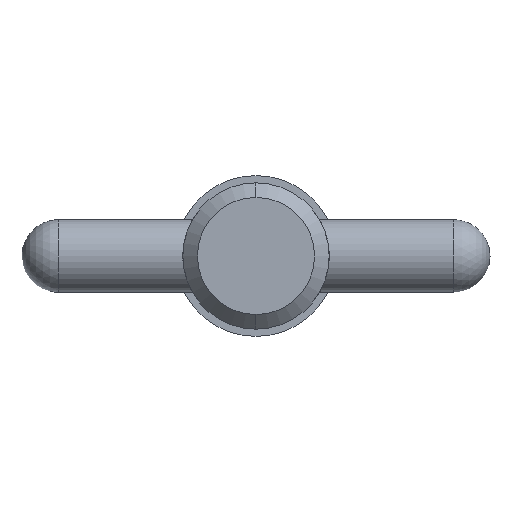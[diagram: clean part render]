
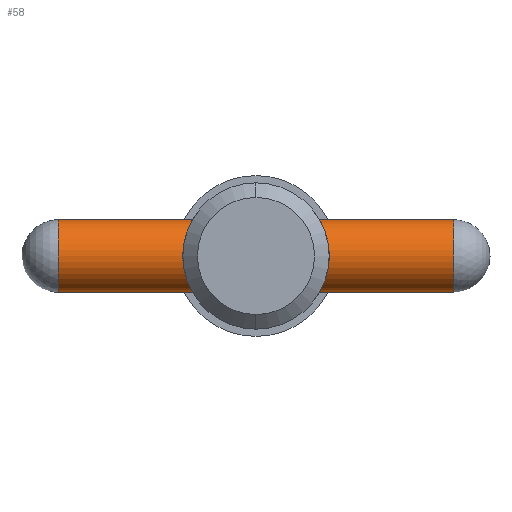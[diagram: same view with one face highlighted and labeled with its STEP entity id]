
A CAD part, left-side view. The second image highlights one B-rep face of the part: STEP entity #58.
In plain terms, the highlighted cylindrical face has radius 1.98 mm (diameter 3.96 mm), a partial arc.
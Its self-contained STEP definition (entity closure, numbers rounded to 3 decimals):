
#35 = EDGE_CURVE ( 'NONE', #330, #503, #840, .T. ) ;
#58 = ADVANCED_FACE ( 'NONE', ( #70 ), #861, .T. ) ;
#70 = FACE_OUTER_BOUND ( 'NONE', #797, .T. ) ;
#84 = AXIS2_PLACEMENT_3D ( 'NONE', #1012, #635, #295 ) ;
#181 = VERTEX_POINT ( 'NONE', #1005 ) ;
#218 = CARTESIAN_POINT ( 'NONE',  ( 0., 10.72, 1.98 ) ) ;
#222 = DIRECTION ( 'NONE',  ( 0., -1., 0. ) ) ;
#231 = CARTESIAN_POINT ( 'NONE',  ( 0., 12.7, 1.98 ) ) ;
#273 = ORIENTED_EDGE ( 'NONE', *, *, #274, .T. ) ;
#274 = EDGE_CURVE ( 'NONE', #181, #345, #651, .T. ) ;
#283 = AXIS2_PLACEMENT_3D ( 'NONE', #921, #369, #432 ) ;
#295 = DIRECTION ( 'NONE',  ( 0., 0., -1. ) ) ;
#319 = VECTOR ( 'NONE', #641, 1000. ) ;
#330 = VERTEX_POINT ( 'NONE', #218 ) ;
#345 = VERTEX_POINT ( 'NONE', #361 ) ;
#361 = CARTESIAN_POINT ( 'NONE',  ( 0., -10.72, 1.98 ) ) ;
#369 = DIRECTION ( 'NONE',  ( 0., 1., 0. ) ) ;
#415 = ORIENTED_EDGE ( 'NONE', *, *, #35, .T. ) ;
#432 = DIRECTION ( 'NONE',  ( 0., 0., -1. ) ) ;
#461 = CARTESIAN_POINT ( 'NONE',  ( 0., 12.7, 0. ) ) ;
#503 = VERTEX_POINT ( 'NONE', #1025 ) ;
#529 = DIRECTION ( 'NONE',  ( 0., 0., -1. ) ) ;
#550 = DIRECTION ( 'NONE',  ( 0., -1., 0. ) ) ;
#607 = LINE ( 'NONE', #231, #738 ) ;
#635 = DIRECTION ( 'NONE',  ( 0., -1., 0. ) ) ;
#641 = DIRECTION ( 'NONE',  ( 0., -1., 0. ) ) ;
#651 = CIRCLE ( 'NONE', #283, 1.98 ) ;
#738 = VECTOR ( 'NONE', #550, 1000. ) ;
#793 = EDGE_CURVE ( 'NONE', #330, #345, #607, .T. ) ;
#797 = EDGE_LOOP ( 'NONE', ( #907, #415, #881, #273 ) ) ;
#840 = CIRCLE ( 'NONE', #84, 1.98 ) ;
#859 = AXIS2_PLACEMENT_3D ( 'NONE', #461, #222, #529 ) ;
#861 = CYLINDRICAL_SURFACE ( 'NONE', #859, 1.98 ) ;
#881 = ORIENTED_EDGE ( 'NONE', *, *, #1010, .T. ) ;
#894 = LINE ( 'NONE', #980, #319 ) ;
#907 = ORIENTED_EDGE ( 'NONE', *, *, #793, .F. ) ;
#921 = CARTESIAN_POINT ( 'NONE',  ( 0., -10.72, 0. ) ) ;
#980 = CARTESIAN_POINT ( 'NONE',  ( 0., 12.7, -1.98 ) ) ;
#1005 = CARTESIAN_POINT ( 'NONE',  ( 0., -10.72, -1.98 ) ) ;
#1010 = EDGE_CURVE ( 'NONE', #503, #181, #894, .T. ) ;
#1012 = CARTESIAN_POINT ( 'NONE',  ( 0., 10.72, 0. ) ) ;
#1025 = CARTESIAN_POINT ( 'NONE',  ( 0., 10.72, -1.98 ) ) ;
